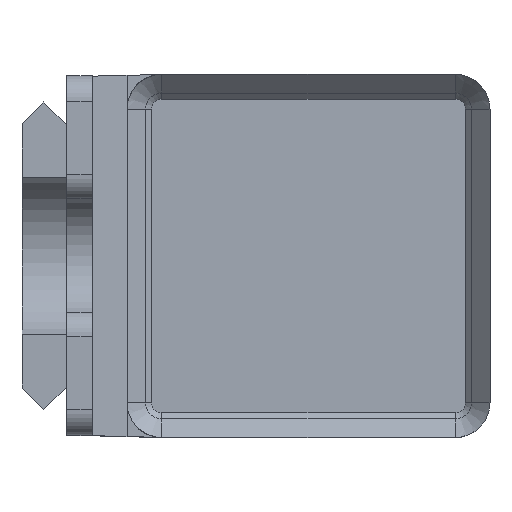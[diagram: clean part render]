
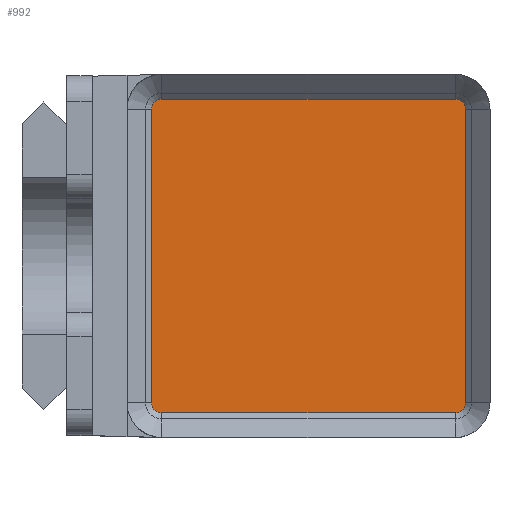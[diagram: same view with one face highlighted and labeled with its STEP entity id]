
A CAD part, top view. The second image highlights one B-rep face of the part: STEP entity #992.
In plain terms, the highlighted planar face has unit normal (0, 0, 1).
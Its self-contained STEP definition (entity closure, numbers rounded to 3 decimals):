
#38=FACE_OUTER_BOUND('',#100,.T.);
#100=EDGE_LOOP('',(#658,#659,#660,#661,#662,#663,#664,#665));
#163=LINE('',#1477,#276);
#164=LINE('',#1481,#277);
#165=LINE('',#1485,#278);
#166=LINE('',#1488,#279);
#276=VECTOR('',#1170,10.);
#277=VECTOR('',#1173,10.);
#278=VECTOR('',#1176,10.);
#279=VECTOR('',#1179,10.);
#389=CIRCLE('',#1069,1.154);
#390=CIRCLE('',#1070,1.154);
#391=CIRCLE('',#1071,1.154);
#392=CIRCLE('',#1072,1.154);
#423=VERTEX_POINT('',#1473);
#424=VERTEX_POINT('',#1474);
#425=VERTEX_POINT('',#1476);
#426=VERTEX_POINT('',#1478);
#427=VERTEX_POINT('',#1480);
#428=VERTEX_POINT('',#1482);
#429=VERTEX_POINT('',#1484);
#430=VERTEX_POINT('',#1486);
#511=EDGE_CURVE('',#423,#424,#389,.F.);
#512=EDGE_CURVE('',#424,#425,#163,.F.);
#513=EDGE_CURVE('',#425,#426,#390,.F.);
#514=EDGE_CURVE('',#426,#427,#164,.F.);
#515=EDGE_CURVE('',#427,#428,#391,.F.);
#516=EDGE_CURVE('',#428,#429,#165,.F.);
#517=EDGE_CURVE('',#429,#430,#392,.F.);
#518=EDGE_CURVE('',#430,#423,#166,.F.);
#658=ORIENTED_EDGE('',*,*,#511,.T.);
#659=ORIENTED_EDGE('',*,*,#512,.T.);
#660=ORIENTED_EDGE('',*,*,#513,.T.);
#661=ORIENTED_EDGE('',*,*,#514,.T.);
#662=ORIENTED_EDGE('',*,*,#515,.T.);
#663=ORIENTED_EDGE('',*,*,#516,.T.);
#664=ORIENTED_EDGE('',*,*,#517,.T.);
#665=ORIENTED_EDGE('',*,*,#518,.T.);
#952=PLANE('',#1068);
#992=ADVANCED_FACE('',(#38),#952,.F.);
#1068=AXIS2_PLACEMENT_3D('',#1472,#1166,#1167);
#1069=AXIS2_PLACEMENT_3D('',#1475,#1168,#1169);
#1070=AXIS2_PLACEMENT_3D('',#1479,#1171,#1172);
#1071=AXIS2_PLACEMENT_3D('',#1483,#1174,#1175);
#1072=AXIS2_PLACEMENT_3D('',#1487,#1177,#1178);
#1166=DIRECTION('center_axis',(0.,0.,-1.));
#1167=DIRECTION('ref_axis',(1.,0.,0.));
#1168=DIRECTION('center_axis',(0.,0.,-1.));
#1169=DIRECTION('ref_axis',(0.,-1.,0.));
#1170=DIRECTION('',(-1.,0.,0.));
#1171=DIRECTION('center_axis',(0.,0.,-1.));
#1172=DIRECTION('ref_axis',(1.,0.,0.));
#1173=DIRECTION('',(0.,-1.,0.));
#1174=DIRECTION('center_axis',(0.,0.,-1.));
#1175=DIRECTION('ref_axis',(0.,1.,0.));
#1176=DIRECTION('',(1.,0.,0.));
#1177=DIRECTION('center_axis',(0.,0.,-1.));
#1178=DIRECTION('ref_axis',(-1.,0.,0.));
#1179=DIRECTION('',(0.,1.,0.));
#1472=CARTESIAN_POINT('Origin',(120.65,0.,-202.124));
#1473=CARTESIAN_POINT('',(105.996,-17.,-202.124));
#1474=CARTESIAN_POINT('',(107.15,-18.154,-202.124));
#1475=CARTESIAN_POINT('Origin',(107.15,-17.,-202.124));
#1476=CARTESIAN_POINT('',(141.15,-18.154,-202.124));
#1477=CARTESIAN_POINT('',(132.65,-18.154,-202.124));
#1478=CARTESIAN_POINT('',(142.304,-17.,-202.124));
#1479=CARTESIAN_POINT('Origin',(141.15,-17.,-202.124));
#1480=CARTESIAN_POINT('',(142.304,17.,-202.124));
#1481=CARTESIAN_POINT('',(142.304,8.5,-202.124));
#1482=CARTESIAN_POINT('',(141.15,18.154,-202.124));
#1483=CARTESIAN_POINT('Origin',(141.15,17.,-202.124));
#1484=CARTESIAN_POINT('',(107.15,18.154,-202.124));
#1485=CARTESIAN_POINT('',(115.65,18.154,-202.124));
#1486=CARTESIAN_POINT('',(105.996,17.,-202.124));
#1487=CARTESIAN_POINT('Origin',(107.15,17.,-202.124));
#1488=CARTESIAN_POINT('',(105.996,0.,-202.124));
